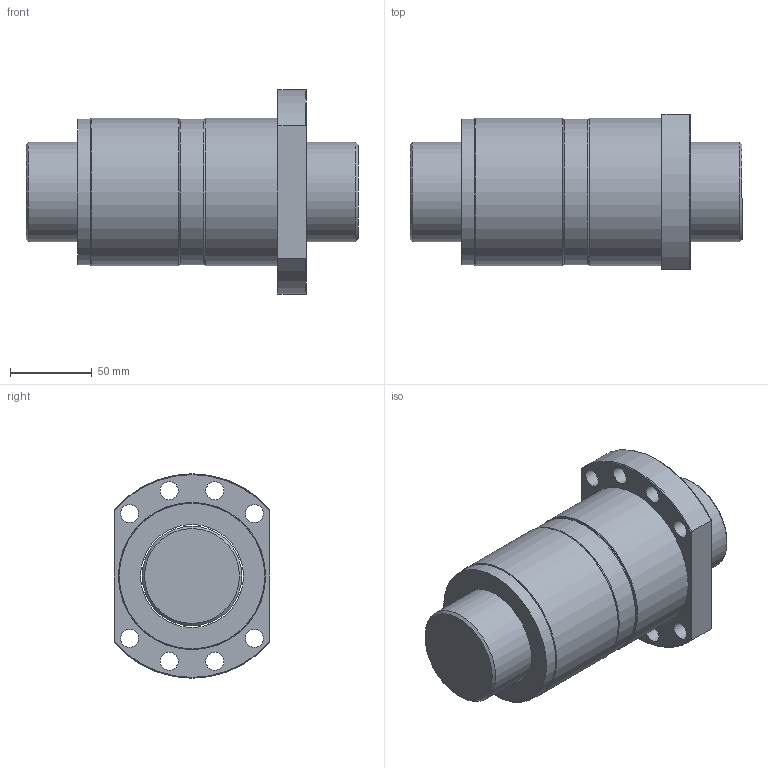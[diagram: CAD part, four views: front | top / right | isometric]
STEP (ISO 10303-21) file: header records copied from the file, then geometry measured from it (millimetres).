
FILE_DESCRIPTION(/* description */ (''),/* implementation_level */ '2;1');
FILE_NAME(/* name */ 'DFS6310',/* time_stamp */ '2007-10-26T13:54:29+08:00',/* author */ (''),/* organization */ (''),/* preprocessor_version */ 'ST-DEVELOPER v9',/* originating_system */ 'UGS - NX 3.0',/* authorisation */ '');
FILE_SCHEMA (('CONFIG_CONTROL_DESIGN'));
Length unit declared in the file: millimetre
Products named in the file (1): jaso15A4i33i
Bounding box: 203 x 95 x 125 mm (x, y, z)
Volume: 1104905.2 mm3; surface area: 160942.4 mm2
Topology: 6 solids, 6 shells, 49 faces, 98 edges, 63 vertices
Faces by surface type: cylinder 22, plane 16, torus 9, cone 2
Full cylindrical faces by diameter (mm): 11 x8, 61 x1, 63 x5, 89 x3, 90 x3
Entity records: 1409 total; most frequent: CARTESIAN_POINT 325, DIRECTION 218, ORIENTED_EDGE 142, AXIS2_PLACEMENT_3D 105, EDGE_LOOP 104, FACE_BOUND 80, EDGE_CURVE 71, VERTEX_POINT 63
